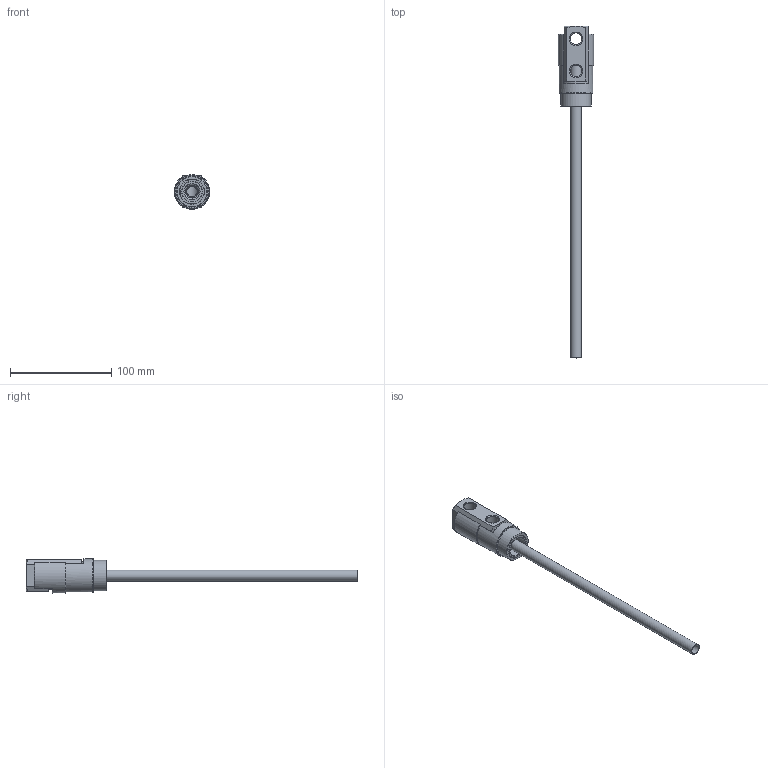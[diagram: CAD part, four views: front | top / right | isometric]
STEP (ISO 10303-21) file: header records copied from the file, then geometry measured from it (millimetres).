
FILE_DESCRIPTION(/* description */ (''),/* implementation_level */ '2;1');
FILE_NAME(/* name */ 'C:/Users/drich/Desktop/SC121N-4.step',/* time_stamp */ '2020-12-14T10:27:01-06:00',/* author */ (''),/* organization */ (''),/* preprocessor_version */ 'ST-DEVELOPER v18.1',/* originating_system */ 'Autodesk Translation Framework v9.7.1.1290',/* authorisation */ '');
FILE_SCHEMA (('AUTOMOTIVE_DESIGN { 1 0 10303 214 3 1 1 }'));
Length unit declared in the file: inch
Products named in the file (6): SC121N-4; SC121H-4 HEAD; SC121H-4 Sleeve; SEAL; Component4; HF437T-12
Assembly tree (5 placements, depth 4):
  SC121N-4
    SC121H-4 HEAD
      SC121H-4 Sleeve
      SEAL
        Component4
    HF437T-12
Bounding box: 34.92 x 328.3 x 34.12 mm (x, y, z)
Volume: 51400.6 mm3; surface area: 45231.4 mm2
Topology: 4 solids, 4 shells, 76 faces, 184 edges, 119 vertices
Faces by surface type: plane 36, cylinder 21, cone 10, torus 9
Full cylindrical faces by diameter (mm): 10.084 x1, 10.846 x1, 11.468 x1, 11.668 x2, 12.565 x1, 12.751 x1, 15.85 x1, 15.875 x1, 20.066 x1, 20.32 x1, 24.384 x1, 27.432 x1, 30.15 x1, 33.325 x1
Entity records: 2523 total; most frequent: CARTESIAN_POINT 547, DIRECTION 410, ORIENTED_EDGE 368, EDGE_CURVE 184, AXIS2_PLACEMENT_3D 162, VERTEX_POINT 119, EDGE_LOOP 91, LINE 86
